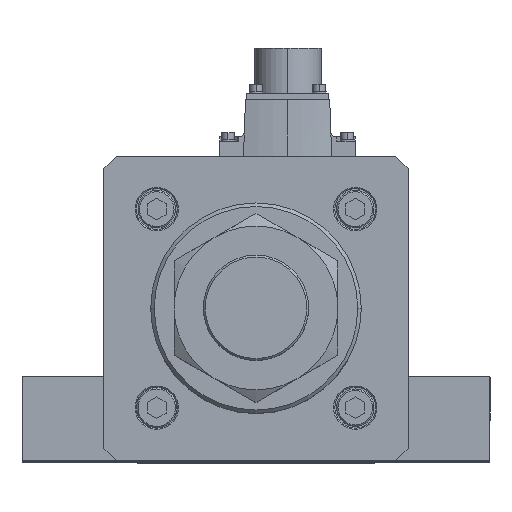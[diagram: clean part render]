
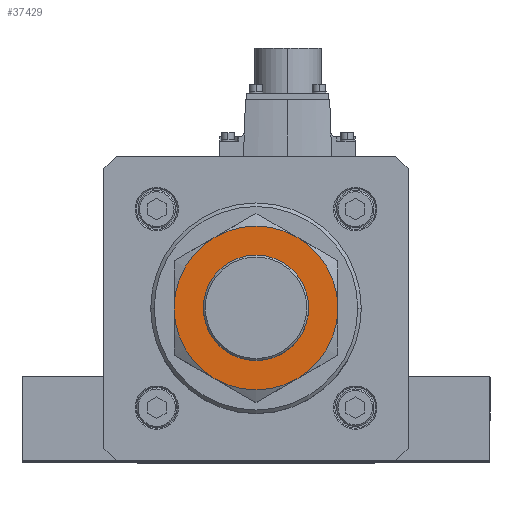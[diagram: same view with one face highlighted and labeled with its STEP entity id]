
A CAD part, top view. The second image highlights one B-rep face of the part: STEP entity #37429.
In plain terms, the highlighted planar face has unit normal (0, 0, 1).
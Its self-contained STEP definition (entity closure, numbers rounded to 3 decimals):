
#1447 = FACE_BOUND ( 'NONE', #13968, .T. ) ;
#1456 = CARTESIAN_POINT ( 'NONE',  ( 0., 0., 27. ) ) ;
#4325 = AXIS2_PLACEMENT_3D ( 'NONE', #23768, #9136, #35878 ) ;
#4913 = DIRECTION ( 'NONE',  ( 0., 0., 1. ) ) ;
#5746 = ORIENTED_EDGE ( 'NONE', *, *, #31387, .F. ) ;
#5846 = VERTEX_POINT ( 'NONE', #36658 ) ;
#6947 = AXIS2_PLACEMENT_3D ( 'NONE', #31814, #19669, #28723 ) ;
#8002 = DIRECTION ( 'NONE',  ( 1., 0., 0. ) ) ;
#8253 = CIRCLE ( 'NONE', #33978, 22.5 ) ;
#8487 = CARTESIAN_POINT ( 'NONE',  ( 0., 0., 27. ) ) ;
#8974 = AXIS2_PLACEMENT_3D ( 'NONE', #23924, #35507, #17847 ) ;
#9136 = DIRECTION ( 'NONE',  ( 0., 0., 1. ) ) ;
#9430 = ORIENTED_EDGE ( 'NONE', *, *, #37890, .F. ) ;
#9826 = AXIS2_PLACEMENT_3D ( 'NONE', #10989, #19803, #25501 ) ;
#10780 = EDGE_CURVE ( 'NONE', #32622, #11977, #23398, .T. ) ;
#10989 = CARTESIAN_POINT ( 'NONE',  ( 0., 0., 27. ) ) ;
#11322 = DIRECTION ( 'NONE',  ( -1., 0., 0. ) ) ;
#11865 = ORIENTED_EDGE ( 'NONE', *, *, #31626, .F. ) ;
#11977 = VERTEX_POINT ( 'NONE', #15685 ) ;
#12031 = VERTEX_POINT ( 'NONE', #18668 ) ;
#12214 = PLANE ( 'NONE',  #4325 ) ;
#13314 = DIRECTION ( 'NONE',  ( 0., 0., 1. ) ) ;
#13968 = EDGE_LOOP ( 'NONE', ( #5746, #36971 ) ) ;
#14136 = VERTEX_POINT ( 'NONE', #37845 ) ;
#14641 = DIRECTION ( 'NONE',  ( 0., 0., -1. ) ) ;
#14790 = DIRECTION ( 'NONE',  ( 0., 0., -1. ) ) ;
#14850 = AXIS2_PLACEMENT_3D ( 'NONE', #26449, #14790, #35455 ) ;
#15090 = CIRCLE ( 'NONE', #33594, 22.5 ) ;
#15685 = CARTESIAN_POINT ( 'NONE',  ( -17.5, -30.311, 27. ) ) ;
#17028 = ORIENTED_EDGE ( 'NONE', *, *, #17723, .F. ) ;
#17500 = CARTESIAN_POINT ( 'NONE',  ( 0., 0., 27. ) ) ;
#17723 = EDGE_CURVE ( 'NONE', #5846, #32622, #23684, .T. ) ;
#17847 = DIRECTION ( 'NONE',  ( -1., 0., 0. ) ) ;
#18125 = CARTESIAN_POINT ( 'NONE',  ( -35., 0., 27. ) ) ;
#18539 = ORIENTED_EDGE ( 'NONE', *, *, #18779, .F. ) ;
#18668 = CARTESIAN_POINT ( 'NONE',  ( -17.5, 30.311, 27. ) ) ;
#18779 = EDGE_CURVE ( 'NONE', #34414, #12031, #20828, .T. ) ;
#19669 = DIRECTION ( 'NONE',  ( 0., 0., -1. ) ) ;
#19803 = DIRECTION ( 'NONE',  ( 0., 0., -1. ) ) ;
#20226 = DIRECTION ( 'NONE',  ( -1., 0., 0. ) ) ;
#20828 = CIRCLE ( 'NONE', #8974, 35. ) ;
#21015 = CIRCLE ( 'NONE', #32542, 35. ) ;
#22199 = AXIS2_PLACEMENT_3D ( 'NONE', #17500, #14641, #20226 ) ;
#22484 = ORIENTED_EDGE ( 'NONE', *, *, #10780, .F. ) ;
#22694 = CIRCLE ( 'NONE', #22199, 35. ) ;
#23398 = CIRCLE ( 'NONE', #6947, 35. ) ;
#23684 = CIRCLE ( 'NONE', #14850, 35. ) ;
#23768 = CARTESIAN_POINT ( 'NONE',  ( 0., 0., 27. ) ) ;
#23924 = CARTESIAN_POINT ( 'NONE',  ( 0., 0., 27. ) ) ;
#24827 = VERTEX_POINT ( 'NONE', #29665 ) ;
#25053 = FACE_OUTER_BOUND ( 'NONE', #27094, .T. ) ;
#25256 = DIRECTION ( 'NONE',  ( 1., 0., 0. ) ) ;
#25501 = DIRECTION ( 'NONE',  ( -1., 0., 0. ) ) ;
#26206 = DIRECTION ( 'NONE',  ( 0., 0., -1. ) ) ;
#26449 = CARTESIAN_POINT ( 'NONE',  ( 0., 0., 27. ) ) ;
#27094 = EDGE_LOOP ( 'NONE', ( #17028, #35837, #11865, #18539, #9430, #22484 ) ) ;
#27741 = EDGE_CURVE ( 'NONE', #24827, #14136, #8253, .T. ) ;
#28723 = DIRECTION ( 'NONE',  ( -1., 0., 0. ) ) ;
#29331 = CIRCLE ( 'NONE', #9826, 35. ) ;
#29665 = CARTESIAN_POINT ( 'NONE',  ( 22.5, 0., 27. ) ) ;
#31110 = CARTESIAN_POINT ( 'NONE',  ( 17.5, -30.311, 27. ) ) ;
#31387 = EDGE_CURVE ( 'NONE', #14136, #24827, #15090, .T. ) ;
#31626 = EDGE_CURVE ( 'NONE', #12031, #33274, #29331, .T. ) ;
#31814 = CARTESIAN_POINT ( 'NONE',  ( 0., 0., 27. ) ) ;
#32542 = AXIS2_PLACEMENT_3D ( 'NONE', #8487, #26206, #11322 ) ;
#32622 = VERTEX_POINT ( 'NONE', #31110 ) ;
#33274 = VERTEX_POINT ( 'NONE', #35631 ) ;
#33594 = AXIS2_PLACEMENT_3D ( 'NONE', #1456, #13314, #25256 ) ;
#33978 = AXIS2_PLACEMENT_3D ( 'NONE', #34757, #4913, #8002 ) ;
#34414 = VERTEX_POINT ( 'NONE', #18125 ) ;
#34757 = CARTESIAN_POINT ( 'NONE',  ( 0., 0., 27. ) ) ;
#35455 = DIRECTION ( 'NONE',  ( -1., 0., 0. ) ) ;
#35507 = DIRECTION ( 'NONE',  ( 0., 0., -1. ) ) ;
#35631 = CARTESIAN_POINT ( 'NONE',  ( 17.5, 30.311, 27. ) ) ;
#35743 = EDGE_CURVE ( 'NONE', #33274, #5846, #21015, .T. ) ;
#35837 = ORIENTED_EDGE ( 'NONE', *, *, #35743, .F. ) ;
#35878 = DIRECTION ( 'NONE',  ( 1., 0., 0. ) ) ;
#36658 = CARTESIAN_POINT ( 'NONE',  ( 35., 0., 27. ) ) ;
#36971 = ORIENTED_EDGE ( 'NONE', *, *, #27741, .F. ) ;
#37429 = ADVANCED_FACE ( 'NONE', ( #25053, #1447 ), #12214, .T. ) ;
#37845 = CARTESIAN_POINT ( 'NONE',  ( -22.5, 0., 27. ) ) ;
#37890 = EDGE_CURVE ( 'NONE', #11977, #34414, #22694, .T. ) ;
